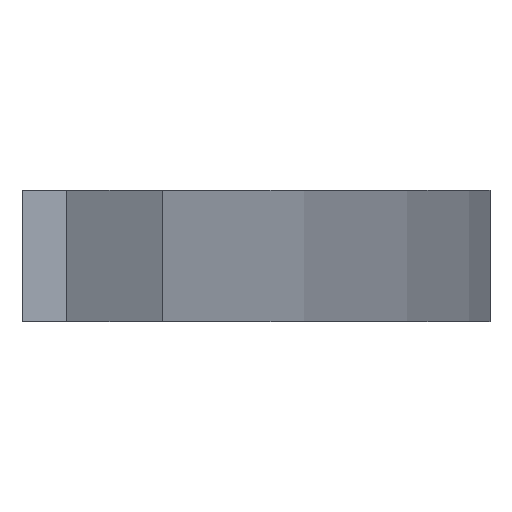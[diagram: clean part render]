
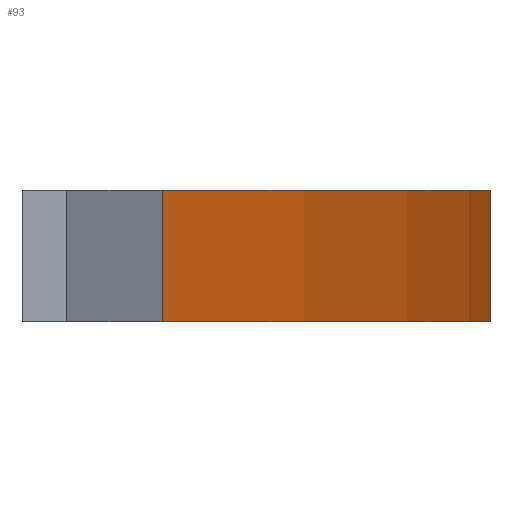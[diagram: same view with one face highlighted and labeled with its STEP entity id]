
A CAD part, left-side view. The second image highlights one B-rep face of the part: STEP entity #93.
In plain terms, the highlighted cylindrical face has radius 156.85 mm (diameter 313.7 mm), a partial arc.
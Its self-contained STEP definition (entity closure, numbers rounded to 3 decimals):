
#93 = ADVANCED_FACE( '', ( #134 ), #135, .T. );
#134 = FACE_OUTER_BOUND( '', #176, .T. );
#135 = CYLINDRICAL_SURFACE( '', #177, 156.85 );
#176 = EDGE_LOOP( '', ( #314, #315, #316, #317 ) );
#177 = AXIS2_PLACEMENT_3D( '', #318, #319, #320 );
#314 = ORIENTED_EDGE( '', *, *, #365, .T. );
#315 = ORIENTED_EDGE( '', *, *, #378, .F. );
#316 = ORIENTED_EDGE( '', *, *, #383, .F. );
#317 = ORIENTED_EDGE( '', *, *, #381, .T. );
#318 = CARTESIAN_POINT( '', ( 64., 131.85, 3.5 ) );
#319 = DIRECTION( '', ( 0., 0., 1. ) );
#320 = DIRECTION( '', ( -0.459, -0.888, 0. ) );
#365 = EDGE_CURVE( '', #434, #432, #435, .T. );
#378 = EDGE_CURVE( '', #454, #432, #456, .T. );
#381 = EDGE_CURVE( '', #460, #434, #461, .T. );
#383 = EDGE_CURVE( '', #460, #454, #463, .T. );
#432 = VERTEX_POINT( '', #528 );
#434 = VERTEX_POINT( '', #531 );
#435 = CIRCLE( '', #532, 156.85 );
#454 = VERTEX_POINT( '', #561 );
#456 = LINE( '', #564, #565 );
#460 = VERTEX_POINT( '', #570 );
#461 = LINE( '', #571, #572 );
#463 = CIRCLE( '', #575, 156.85 );
#528 = CARTESIAN_POINT( '', ( 135.997, -7.5, -3.5 ) );
#531 = CARTESIAN_POINT( '', ( -7.997, -7.5, -3.5 ) );
#532 = AXIS2_PLACEMENT_3D( '', #629, #630, #631 );
#561 = CARTESIAN_POINT( '', ( 135.997, -7.5, 3.5 ) );
#564 = CARTESIAN_POINT( '', ( 135.997, -7.5, 3.5 ) );
#565 = VECTOR( '', #646, 1. );
#570 = CARTESIAN_POINT( '', ( -7.997, -7.5, 3.5 ) );
#571 = CARTESIAN_POINT( '', ( -7.997, -7.5, 3.5 ) );
#572 = VECTOR( '', #651, 1. );
#575 = AXIS2_PLACEMENT_3D( '', #653, #654, #655 );
#629 = CARTESIAN_POINT( '', ( 64., 131.85, -3.5 ) );
#630 = DIRECTION( '', ( 0., 0., 1. ) );
#631 = DIRECTION( '', ( -0.459, -0.888, 0. ) );
#646 = DIRECTION( '', ( 0., 0., -1. ) );
#651 = DIRECTION( '', ( 0., 0., -1. ) );
#653 = CARTESIAN_POINT( '', ( 64., 131.85, 3.5 ) );
#654 = DIRECTION( '', ( 0., 0., 1. ) );
#655 = DIRECTION( '', ( -0.459, -0.888, 0. ) );
